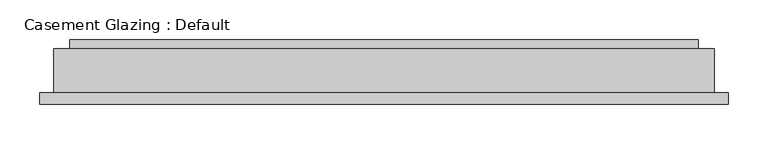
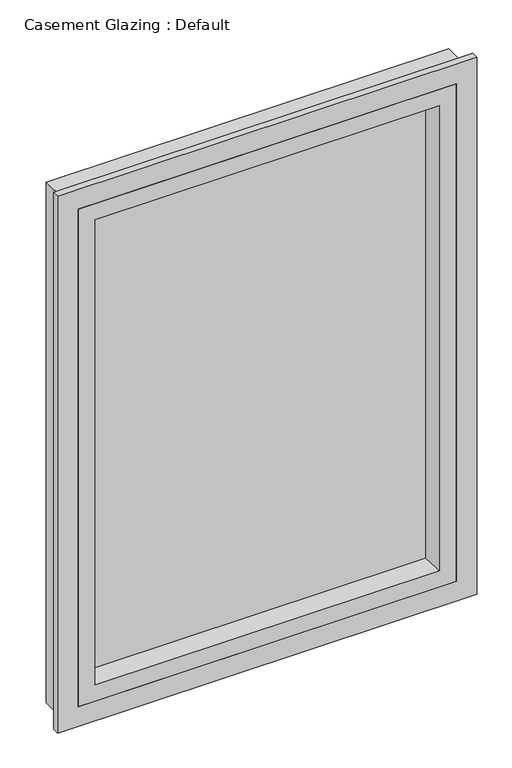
"""IFC4 building model written with IfcOpenShell, lengths in millimetres: proxy geometry, Casement Glazing : Default."""

from ifc_helpers import new_model, si_unit, frame, origin, place, context, project, spatial, polyline, outline, extrude, faceted_brep, source, transform, mapped, element, save


def casement_glazing_default_e3ecf4c6(model_context):
    return source(origin(), model_context, "Body", "SolidModel", [
        extrude(outline(polyline([(-381.0, 64.29375), (-381.0, 69.85), (381.0, 69.85), (381.0, 64.29375), (-381.0, 64.29375)])), frame((0.0, 0.0, 838.2), z_axis=(0.0, 0.0, 1.0), x_axis=(1.0, 0.0, 0.0)), (0.0, 0.0, 1.0), 1066.8),
        extrude(outline(polyline([(-381.0, 41.275), (-381.0, 46.83125), (381.0, 46.83125), (381.0, 41.275), (-381.0, 41.275)])), frame((0.0, 0.0, 838.2), z_axis=(0.0, 0.0, 1.0), x_axis=(1.0, 0.0, 0.0)), (0.0, 0.0, 1.0), 1066.8),
        faceted_brep([(-350.8375, 41.275, 868.3625), (-355.6, 0.0, 863.6), (355.6, 0.0, 863.6), (350.8375, 41.275, 868.3625), (-381.0, 20.6375, 838.2), (-357.1875, 41.275, 862.0125), (357.1875, 41.275, 862.0125), (381.0, 20.6375, 838.2), (-381.0, 1.5875, 838.2), (381.0, 1.5875, 838.2), (-390.525, 0.0, 828.675), (-390.525, 1.5875, 828.675), (390.525, 1.5875, 828.675), (390.525, 0.0, 828.675), (355.6, 0.0, 1879.6), (350.8375, 41.275, 1874.8375), (357.1875, 41.275, 1881.1875), (381.0, 20.6375, 1905.0), (381.0, 1.5875, 1905.0), (390.525, 1.5875, 1914.525), (390.525, 0.0, 1914.525), (-355.6, 0.0, 1879.6), (-350.8375, 41.275, 1874.8375), (-357.1875, 41.275, 1881.1875), (-381.0, 20.6375, 1905.0), (-381.0, 1.5875, 1905.0), (-390.525, 1.5875, 1914.525), (-390.525, 0.0, 1914.525)], [[[0, 1, 2, 3]], [[4, 5, 6, 7]], [[8, 4, 7, 9]], [[10, 11, 12, 13]], [[3, 2, 14, 15]], [[7, 6, 16, 17]], [[9, 7, 17, 18]], [[13, 12, 19, 20]], [[15, 14, 21, 22]], [[17, 16, 23, 24]], [[18, 17, 24, 25]], [[20, 19, 26, 27]], [[22, 21, 1, 0]], [[5, 23, 16, 6], [3, 15, 22, 0]], [[24, 23, 5, 4]], [[25, 24, 4, 8]], [[11, 26, 19, 12], [9, 18, 25, 8]], [[27, 26, 11, 10]], [[13, 20, 27, 10], [1, 21, 14, 2]]]),
        faceted_brep([(-390.525, 14.2875, 828.675), (-390.525, 0.0, 828.675), (390.525, 0.0, 828.675), (390.525, 14.2875, 828.675), (-381.0, 69.85, 838.2), (-381.0, 14.2875, 838.2), (381.0, 14.2875, 838.2), (381.0, 69.85, 838.2), (-352.425, 80.9625, 866.775), (-352.425, 69.85, 866.775), (352.425, 69.85, 866.775), (352.425, 80.9625, 866.775), (-395.2875, 69.85, 823.9125), (-395.2875, 80.9625, 823.9125), (395.2875, 80.9625, 823.9125), (395.2875, 69.85, 823.9125), (-415.925, 14.2875, 803.275), (-415.925, 69.85, 803.275), (415.925, 69.85, 803.275), (415.925, 14.2875, 803.275), (-433.3875, 0.0, 785.8125), (-433.3875, 14.2875, 785.8125), (433.3875, 14.2875, 785.8125), (433.3875, 0.0, 785.8125), (390.525, 0.0, 1914.525), (390.525, 14.2875, 1914.525), (381.0, 14.2875, 1905.0), (381.0, 69.85, 1905.0), (352.425, 69.85, 1876.425), (352.425, 80.9625, 1876.425), (395.2875, 80.9625, 1919.2875), (395.2875, 69.85, 1919.2875), (415.925, 69.85, 1939.925), (415.925, 14.2875, 1939.925), (433.3875, 14.2875, 1957.3875), (433.3875, 0.0, 1957.3875), (-390.525, 0.0, 1914.525), (-390.525, 14.2875, 1914.525), (-381.0, 14.2875, 1905.0), (-381.0, 69.85, 1905.0), (-352.425, 69.85, 1876.425), (-352.425, 80.9625, 1876.425), (-395.2875, 80.9625, 1919.2875), (-395.2875, 69.85, 1919.2875), (-415.925, 69.85, 1939.925), (-415.925, 14.2875, 1939.925), (-433.3875, 14.2875, 1957.3875), (-433.3875, 0.0, 1957.3875)], [[[0, 1, 2, 3]], [[4, 5, 6, 7]], [[8, 9, 10, 11]], [[12, 13, 14, 15]], [[16, 17, 18, 19]], [[20, 21, 22, 23]], [[3, 2, 24, 25]], [[7, 6, 26, 27]], [[11, 10, 28, 29]], [[15, 14, 30, 31]], [[19, 18, 32, 33]], [[23, 22, 34, 35]], [[25, 24, 36, 37]], [[27, 26, 38, 39]], [[29, 28, 40, 41]], [[31, 30, 42, 43]], [[33, 32, 44, 45]], [[35, 34, 46, 47]], [[37, 36, 1, 0]], [[3, 25, 37, 0], [5, 38, 26, 6]], [[39, 38, 5, 4]], [[7, 27, 39, 4], [9, 40, 28, 10]], [[41, 40, 9, 8]], [[13, 42, 30, 14], [11, 29, 41, 8]], [[43, 42, 13, 12]], [[17, 44, 32, 18], [15, 31, 43, 12]], [[45, 44, 17, 16]], [[21, 46, 34, 22], [19, 33, 45, 16]], [[47, 46, 21, 20]], [[23, 35, 47, 20], [1, 36, 24, 2]]]),
    ])


if __name__ == "__main__":
    model = new_model("IFC4")
    model_context = context("Model", 3, world=origin())
    ifc_project = project(units=[si_unit("LENGTHUNIT", "METRE", prefix="MILLI")], contexts=[model_context])
    site = spatial("IfcSite", under=ifc_project)
    building = spatial("IfcBuilding", under=site)
    placement = place(None, origin())
    casement_glazing_default_shape = casement_glazing_default_e3ecf4c6(model_context)
    element("IfcBuildingElementProxy", 1, Name="Casement Glazing : Default", ObjectType="Casement Glazing : Default", at=placement, inside=building, context=model_context, shape_type="MappedRepresentation", body=[
        mapped(casement_glazing_default_shape, transform((0.0, 0.0, 0.0), x_axis=(1.0, 0.0, 0.0), y_axis=(0.0, 1.0, 0.0), z_axis=(0.0, 0.0, 1.0))),
    ])
    save(model, "model.ifc")
